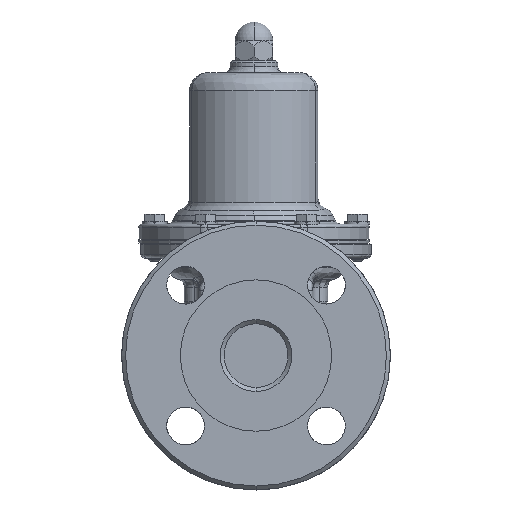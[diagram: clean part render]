
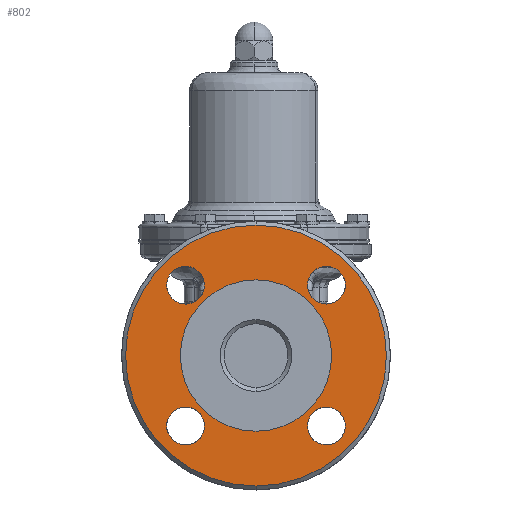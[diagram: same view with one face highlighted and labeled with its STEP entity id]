
A CAD part, left-side view. The second image highlights one B-rep face of the part: STEP entity #802.
In plain terms, the highlighted planar face has unit normal (-1, 0, 0).
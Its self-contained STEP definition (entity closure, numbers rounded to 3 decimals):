
#802=ADVANCED_FACE('',(#4579,#4580,#4581,#4582,#4583,#4584),#4578,.F.);
#4578=PLANE('',#10657);
#4579=FACE_OUTER_BOUND('',#10658,.T.);
#4580=FACE_BOUND('',#10659,.T.);
#4581=FACE_BOUND('',#10660,.T.);
#4582=FACE_BOUND('',#10661,.T.);
#4583=FACE_BOUND('',#10662,.T.);
#4584=FACE_BOUND('',#10663,.T.);
#10654=CARTESIAN_POINT('',(-109.,-123.449,75.5));
#10655=DIRECTION('',(1.,0.,0.));
#10656=DIRECTION('',(0.,0.,-1.));
#10657=AXIS2_PLACEMENT_3D('',#10654,#10655,#10656);
#10658=EDGE_LOOP('',(#15393,#15394));
#10659=EDGE_LOOP('',(#15395,#15396));
#10660=EDGE_LOOP('',(#15397,#15398));
#10661=EDGE_LOOP('',(#15399,#15400));
#10662=EDGE_LOOP('',(#15401,#15402));
#10663=EDGE_LOOP('',(#15403,#15404));
#15393=ORIENTED_EDGE('',*,*,#17483,.T.);
#15394=ORIENTED_EDGE('',*,*,#17484,.T.);
#15395=ORIENTED_EDGE('',*,*,#17485,.T.);
#15396=ORIENTED_EDGE('',*,*,#17486,.T.);
#15397=ORIENTED_EDGE('',*,*,#17487,.T.);
#15398=ORIENTED_EDGE('',*,*,#17488,.T.);
#15399=ORIENTED_EDGE('',*,*,#17489,.T.);
#15400=ORIENTED_EDGE('',*,*,#17490,.T.);
#15401=ORIENTED_EDGE('',*,*,#17491,.T.);
#15402=ORIENTED_EDGE('',*,*,#17492,.T.);
#15403=ORIENTED_EDGE('',*,*,#17493,.F.);
#15404=ORIENTED_EDGE('',*,*,#17494,.F.);
#17483=EDGE_CURVE('',#24844,#24845,#24846,.T.);
#17484=EDGE_CURVE('',#24845,#24844,#24852,.T.);
#17485=EDGE_CURVE('',#24858,#24859,#24860,.T.);
#17486=EDGE_CURVE('',#24859,#24858,#24866,.T.);
#17487=EDGE_CURVE('',#24872,#24873,#24874,.T.);
#17488=EDGE_CURVE('',#24873,#24872,#24880,.T.);
#17489=EDGE_CURVE('',#24886,#24887,#24888,.T.);
#17490=EDGE_CURVE('',#24887,#24886,#24894,.T.);
#17491=EDGE_CURVE('',#24900,#24901,#24902,.T.);
#17492=EDGE_CURVE('',#24901,#24900,#24908,.T.);
#17493=EDGE_CURVE('',#24914,#24915,#24916,.T.);
#17494=EDGE_CURVE('',#24915,#24914,#24922,.T.);
#24844=VERTEX_POINT('',#34681);
#24845=VERTEX_POINT('',#34682);
#24846=CIRCLE('',#34686,65.5);
#24852=CIRCLE('',#34690,65.5);
#24858=VERTEX_POINT('',#34691);
#24859=VERTEX_POINT('',#34692);
#24860=(BOUNDED_CURVE() B_SPLINE_CURVE(2,(#34693,#34694,#34695,#34696,#34697),.UNSPECIFIED.,.F.,.F.) B_SPLINE_CURVE_WITH_KNOTS((3,2,3),(0.,0.5,1.),.UNSPECIFIED.) CURVE() GEOMETRIC_REPRESENTATION_ITEM() RATIONAL_B_SPLINE_CURVE((1.,0.707,1.,0.707,1.)) REPRESENTATION_ITEM('') );
#24866=(BOUNDED_CURVE() B_SPLINE_CURVE(2,(#34698,#34699,#34700,#34701,#34702),.UNSPECIFIED.,.F.,.F.) B_SPLINE_CURVE_WITH_KNOTS((3,2,3),(0.,0.5,1.),.UNSPECIFIED.) CURVE() GEOMETRIC_REPRESENTATION_ITEM() RATIONAL_B_SPLINE_CURVE((1.,0.707,1.,0.707,1.)) REPRESENTATION_ITEM('') );
#24872=VERTEX_POINT('',#34703);
#24873=VERTEX_POINT('',#34704);
#24874=CIRCLE('',#34708,9.5);
#24880=CIRCLE('',#34712,9.5);
#24886=VERTEX_POINT('',#34713);
#24887=VERTEX_POINT('',#34714);
#24888=CIRCLE('',#34718,9.5);
#24894=CIRCLE('',#34722,9.5);
#24900=VERTEX_POINT('',#34723);
#24901=VERTEX_POINT('',#34724);
#24902=(BOUNDED_CURVE() B_SPLINE_CURVE(2,(#34725,#34726,#34727,#34728,#34729),.UNSPECIFIED.,.F.,.F.) B_SPLINE_CURVE_WITH_KNOTS((3,2,3),(0.,0.5,1.),.UNSPECIFIED.) CURVE() GEOMETRIC_REPRESENTATION_ITEM() RATIONAL_B_SPLINE_CURVE((1.,0.707,1.,0.707,1.)) REPRESENTATION_ITEM('') );
#24908=(BOUNDED_CURVE() B_SPLINE_CURVE(2,(#34730,#34731,#34732,#34733,#34734),.UNSPECIFIED.,.F.,.F.) B_SPLINE_CURVE_WITH_KNOTS((3,2,3),(0.,0.5,1.),.UNSPECIFIED.) CURVE() GEOMETRIC_REPRESENTATION_ITEM() RATIONAL_B_SPLINE_CURVE((1.,0.707,1.,0.707,1.)) REPRESENTATION_ITEM('') );
#24914=VERTEX_POINT('',#34735);
#24915=VERTEX_POINT('',#34736);
#24916=CIRCLE('',#34740,38.);
#24922=CIRCLE('',#34744,38.);
#34681=CARTESIAN_POINT('',(-109.,0.,65.5));
#34682=CARTESIAN_POINT('',(-109.,0.,-65.5));
#34683=CARTESIAN_POINT('',(-109.,0.,0.));
#34684=DIRECTION('',(-1.,0.,0.));
#34685=DIRECTION('',(0.,0.,1.));
#34686=AXIS2_PLACEMENT_3D('',#34683,#34684,#34685);
#34687=CARTESIAN_POINT('',(-109.,0.,0.));
#34688=DIRECTION('',(-1.,0.,0.));
#34689=DIRECTION('',(0.,0.,1.));
#34690=AXIS2_PLACEMENT_3D('',#34687,#34688,#34689);
#34691=CARTESIAN_POINT('',(-109.,-35.349,-44.855));
#34692=CARTESIAN_POINT('',(-109.,-35.361,-25.855));
#34693=CARTESIAN_POINT('',(-109.,-35.349,-44.855));
#34694=CARTESIAN_POINT('',(-109.,-25.852,-44.855));
#34695=CARTESIAN_POINT('',(-109.,-25.855,-35.352));
#34696=CARTESIAN_POINT('',(-109.,-25.858,-25.849));
#34697=CARTESIAN_POINT('',(-109.,-35.361,-25.855));
#34698=CARTESIAN_POINT('',(-109.,-35.361,-25.855));
#34699=CARTESIAN_POINT('',(-109.,-44.858,-25.861));
#34700=CARTESIAN_POINT('',(-109.,-44.855,-35.358));
#34701=CARTESIAN_POINT('',(-109.,-44.852,-44.855));
#34702=CARTESIAN_POINT('',(-109.,-35.349,-44.855));
#34703=CARTESIAN_POINT('',(-109.,-35.355,25.855));
#34704=CARTESIAN_POINT('',(-109.,-35.358,44.855));
#34705=CARTESIAN_POINT('',(-109.,-35.355,35.355));
#34706=DIRECTION('',(1.,0.,0.));
#34707=DIRECTION('',(0.,0.,-1.));
#34708=AXIS2_PLACEMENT_3D('',#34705,#34706,#34707);
#34709=CARTESIAN_POINT('',(-109.,-35.355,35.355));
#34710=DIRECTION('',(1.,0.,0.));
#34711=DIRECTION('',(0.,0.,-1.));
#34712=AXIS2_PLACEMENT_3D('',#34709,#34710,#34711);
#34713=CARTESIAN_POINT('',(-109.,35.355,-44.855));
#34714=CARTESIAN_POINT('',(-109.,35.351,-25.855));
#34715=CARTESIAN_POINT('',(-109.,35.355,-35.355));
#34716=DIRECTION('',(1.,0.,0.));
#34717=DIRECTION('',(0.,0.,-1.));
#34718=AXIS2_PLACEMENT_3D('',#34715,#34716,#34717);
#34719=CARTESIAN_POINT('',(-109.,35.355,-35.355));
#34720=DIRECTION('',(1.,0.,0.));
#34721=DIRECTION('',(0.,0.,-1.));
#34722=AXIS2_PLACEMENT_3D('',#34719,#34720,#34721);
#34723=CARTESIAN_POINT('',(-109.,35.362,25.855));
#34724=CARTESIAN_POINT('',(-109.,35.349,44.855));
#34725=CARTESIAN_POINT('',(-109.,35.362,25.855));
#34726=CARTESIAN_POINT('',(-109.,44.859,25.855));
#34727=CARTESIAN_POINT('',(-109.,44.855,35.359));
#34728=CARTESIAN_POINT('',(-109.,44.852,44.862));
#34729=CARTESIAN_POINT('',(-109.,35.349,44.855));
#34730=CARTESIAN_POINT('',(-109.,35.349,44.855));
#34731=CARTESIAN_POINT('',(-109.,25.852,44.849));
#34732=CARTESIAN_POINT('',(-109.,25.855,35.352));
#34733=CARTESIAN_POINT('',(-109.,25.859,25.855));
#34734=CARTESIAN_POINT('',(-109.,35.362,25.855));
#34735=CARTESIAN_POINT('',(-109.,0.,38.));
#34736=CARTESIAN_POINT('',(-109.,0.,-38.));
#34737=CARTESIAN_POINT('',(-109.,0.,0.));
#34738=DIRECTION('',(-1.,0.,0.));
#34739=DIRECTION('',(0.,0.,-1.));
#34740=AXIS2_PLACEMENT_3D('',#34737,#34738,#34739);
#34741=CARTESIAN_POINT('',(-109.,0.,0.));
#34742=DIRECTION('',(-1.,0.,0.));
#34743=DIRECTION('',(0.,0.,-1.));
#34744=AXIS2_PLACEMENT_3D('',#34741,#34742,#34743);
